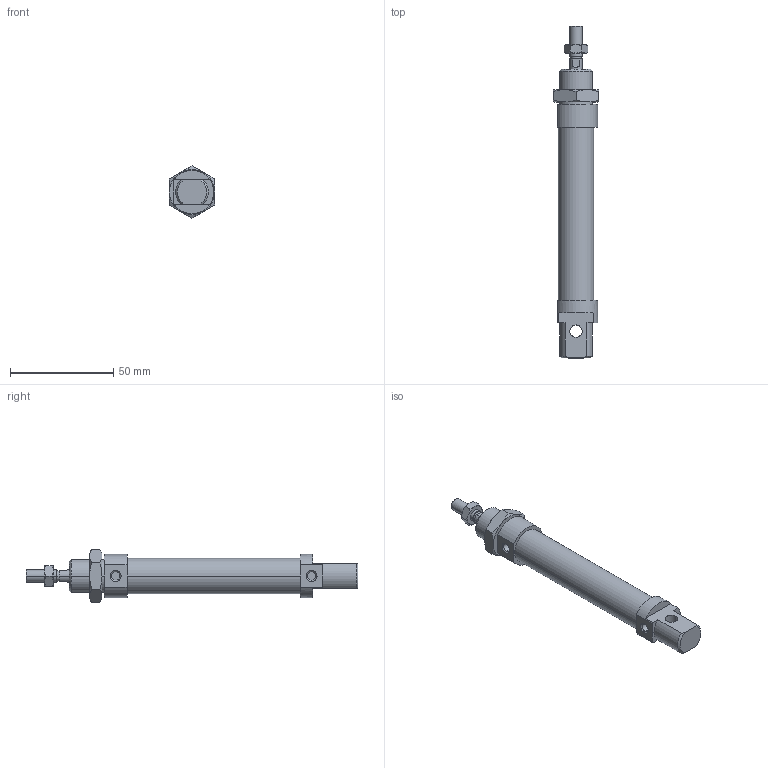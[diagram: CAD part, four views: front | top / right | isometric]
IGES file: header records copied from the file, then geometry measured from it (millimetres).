
Global section: file name: No Iges File Name specified; native system: Autodesk Inventor 2010; preprocessor: AutoDesk Inventor Iges Exporter R2010; author: rivolro1; date: 20090604.093216; units: millimetre
Bounding box: 22 x 161 x 25.4 mm (x, y, z)
Volume: 34478.5 mm3; surface area: 13633.5 mm2
Topology: 4 solids, 4 shells, 107 faces, 236 edges, 144 vertices
Faces by surface type: plane 39, cone 28, bspline 20, cylinder 14, revolution 6
